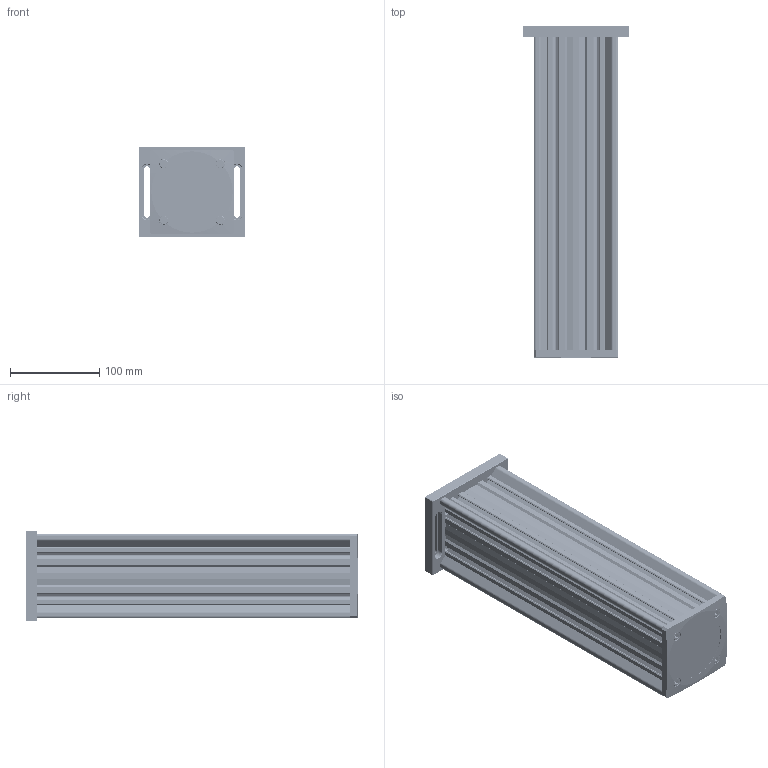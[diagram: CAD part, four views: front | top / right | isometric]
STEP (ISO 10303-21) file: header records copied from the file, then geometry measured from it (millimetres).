
FILE_DESCRIPTION((''),'2;1');
FILE_NAME('OPH95-350V_ASM','2023-07-24T10:04:35',('R&D'),(''),'CREO PARAMETRIC BY PTC INC, 2021063','CREO PARAMETRIC BY PTC INC, 2021063','');
FILE_SCHEMA(('CONFIG_CONTROL_DESIGN'));
Products named in the file (5): OPH95-350; OPS95-MO; OPH95-ML; ISO4762-M6X10-8_8; OPH95-350V_ASM
Assembly tree (11 placements, depth 2):
  OPH95-350V_ASM
    OPH95-350
    OPS95-MO
    OPH95-ML
    ISO4762-M6X10-8_8  x8
Bounding box: 119 x 371 x 101.5 mm (x, y, z)
Volume: 1054844.1 mm3; surface area: 444594.3 mm2
Topology: 11 solids, 52 shells, 2366 faces, 6496 edges, 4216 vertices
Faces by surface type: cylinder 1282, bspline 540, plane 418, cone 110, torus 16
Entity records: 198862 total; most frequent: CARTESIAN_POINT 148905, ORIENTED_EDGE 12212, DIRECTION 7202, EDGE_CURVE 6174, VERTEX_POINT 4006, B_SPLINE_CURVE_WITH_KNOTS 2982, VECTOR 2584, LINE 2584
